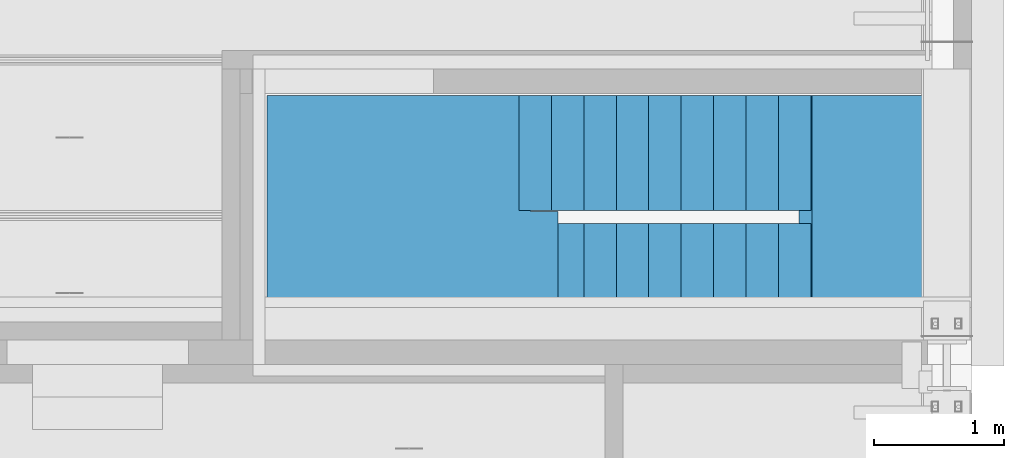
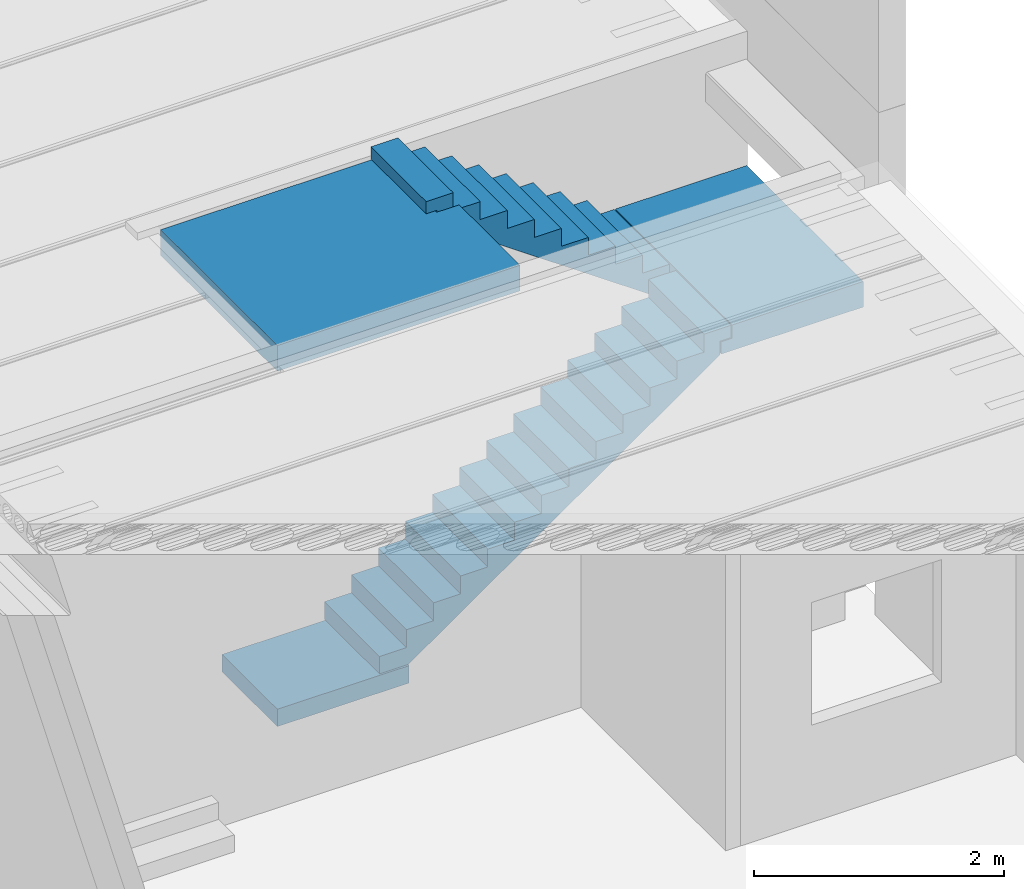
# One storey, part 71 of 230: 1 stair, 1 element without a shape of its own.
"""IFC4X3_ADD2 building model written with IfcOpenShell, lengths in millimetres."""

from ifc_helpers import new_model, si_unit, direction, frame, frame_2d, origin_with_axes, place, context, subcontext, project, spatial, polyline, rectangle, outline, extrude, source, transform, mapped, material, element, aggregate, save


model = new_model("IFC4X3_ADD2")

# Units and contexts
model_context = context("Model", 3, precision=1e-05, world=origin_with_axes(), true_north=direction((0.0, 1.0)))
body_context = subcontext(model_context, "Body", "Model", "MODEL_VIEW")
ifc_project = project(units=[si_unit("LENGTHUNIT", "METRE", prefix="MILLI"), si_unit("AREAUNIT", "SQUARE_METRE"), si_unit("VOLUMEUNIT", "CUBIC_METRE"), si_unit("PLANEANGLEUNIT", "RADIAN"), si_unit("TIMEUNIT", "SECOND"), si_unit("MASSUNIT", "GRAM")], contexts=[model_context])

# Site, building, storey
site_placement = place(None, origin_with_axes())
site = spatial("IfcSite", under=ifc_project, at=site_placement, Name="Site", CompositionType="ELEMENT")
building_placement = place(site_placement, origin_with_axes())
building = spatial("IfcBuilding", under=site, at=building_placement, Name="IFC Building Story")
storey_placement = place(building_placement, origin_with_axes())
storey = spatial("IfcBuildingStorey", under=building, at=storey_placement, Name="ETAGE 00 (0)", Elevation=0.0)

# Stairs
stair_1_placement = place(storey_placement, origin_with_axes())
stair_1 = element("IfcStair", 1, at=stair_1_placement, inside=storey, Name="Escalier BS_24_STR_Escalier", ObjectType="Escalier BS_24_STR_Escalier", PredefinedType="NOTDEFINED")
ifc_material = material(Name="BS_28_Ossature en béton armé - Eléments préfabriqués")
shared_shape = source(origin_with_axes(), body_context, "Body", "SweptSolid", [
    extrude(outline(polyline([(836.1770476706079, 622.67606663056), (836.1770476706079, 447.6760666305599), (586.1770476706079, 447.6760666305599), (586.1770476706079, 272.6760666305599), (336.1770476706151, 272.6760666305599), (336.1770476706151, 97.67606663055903), (86.17704767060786, 97.67606663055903), (86.17704767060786, -77.32393336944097), (-163.8229523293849, -77.32393336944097), (-163.8229523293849, -252.323933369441), (-413.8229523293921, -252.323933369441), (-413.8229523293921, -427.323933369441), (-663.8229523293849, -427.323933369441), (-663.8229523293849, -602.3239333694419), (-913.8229523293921, -602.3239333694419), (-913.8229523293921, -777.3239333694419), (-1163.822952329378, -777.3239333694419), (-1163.822952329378, -657.3239333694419), (-1063.822952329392, -657.3239333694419), (-1063.822952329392, -524.2255991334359), (931.7508559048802, 872.6760666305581), (986.1770476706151, 872.6760666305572), (986.1770476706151, 742.67606663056), (1086.177047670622, 742.67606663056), (1086.177047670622, 622.67606663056), (836.1770476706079, 622.67606663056)])), frame((46175.51243048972, 19000.0, 3592.676066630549), z_axis=(0.0, 1.0, 0.0), x_axis=(1.0, 0.0, 0.0)), (0.0, 0.0, 1.0), 884.9999999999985),
    extrude(rectangle(XDim=1220.0, YDim=885.0, at=frame_2d((0.0, 5.95523630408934e-12), x_axis=(1.0, 0.0))), frame((43676.6894781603, 18457.5000000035, 515.0), z_axis=(0.0, 0.0, 1.0), x_axis=(1.0, 0.0, 0.0)), (0.0, 0.0, 1.0), 170.0),
    extrude(outline(polyline([(-1429.635867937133, 1056.996827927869), (-1679.635867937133, 1056.996827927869), (-1679.635867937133, 1226.996827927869), (-1410.923961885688, 1226.996827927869), (1470.364132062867, -789.9048378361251), (1470.364132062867, -923.0031720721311), (1570.364132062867, -923.0031720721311), (1570.364132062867, -1043.003172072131), (1320.364132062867, -1043.003172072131), (1320.364132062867, -868.0031720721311), (1070.364132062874, -868.0031720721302), (1070.364132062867, -693.0031720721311), (820.364132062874, -693.0031720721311), (820.364132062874, -518.0031720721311), (570.3641320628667, -518.0031720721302), (570.3641320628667, -343.0031720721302), (320.364132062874, -343.0031720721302), (320.364132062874, -168.0031720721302), (70.3641320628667, -168.0031720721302), (70.3641320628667, 6.996827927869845), (-179.635867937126, 6.996827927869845), (-179.635867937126, 181.9968279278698), (-429.6358679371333, 181.9968279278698), (-429.635867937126, 356.9968279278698), (-679.6358679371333, 356.9968279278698), (-679.6358679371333, 531.9968279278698), (-929.635867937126, 531.9968279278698), (-929.635867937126, 706.9968279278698), (-1179.635867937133, 706.9968279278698), (-1179.635867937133, 881.9968279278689), (-1429.635867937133, 881.9968279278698), (-1429.635867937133, 1056.996827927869)])), frame((45691.3253460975, 18015.0000000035, 1926.996827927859), z_axis=(0.0, 1.0, 0.0), x_axis=(1.0, 0.0, 0.0)), (0.0, 0.0, 1.0), 885.0),
    extrude(outline(polyline([(-371.6666666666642, 3.333333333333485), (-471.6666666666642, 3.33333333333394), (-471.6666666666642, 123.3333333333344), (843.333333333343, 123.3333333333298), (843.333333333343, -126.6666666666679), (-371.6666666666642, -126.6666666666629), (-371.6666666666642, 3.333333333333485)])), frame((47643.356144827, 18015.0000000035, 2843.33333333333), z_axis=(0.0, 1.0, 0.0), x_axis=(1.0, 0.0, 0.0)), (0.0, 0.0, 1.0), 1870.0),
    extrude(outline(polyline([(608.3333333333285, 26.66666666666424), (818.3333333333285, 26.66666666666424), (818.3333333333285, -948.3333333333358), (-1426.666666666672, -948.3333333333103), (-1426.666666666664, 921.6666666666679), (608.3333333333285, 921.6666666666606), (608.3333333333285, 26.66666666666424)])), frame((44493.356144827, 18963.3333333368, 3990.0), z_axis=(0.0, 0.0, 1.0), x_axis=(1.0, 0.0, 0.0)), (0.0, 0.0, 1.0), 250.0),
])
stair_2_placement = place(stair_1_placement, origin_with_axes())
stair_2 = element("IfcStair", 2, at=stair_2_placement, material=ifc_material, Name="Escalier secours:BS_24_STR_Escalier secours", ObjectType="Escalier secours:BS_24_STR_Escalier secours", PredefinedType="NOTDEFINED", context=body_context, shape_type="MappedRepresentation", body=[
    mapped(shared_shape, transform((0.0, 0.0, 0.0))),
])
aggregate(stair_1, [stair_2])

save(model, "model.ifc")
